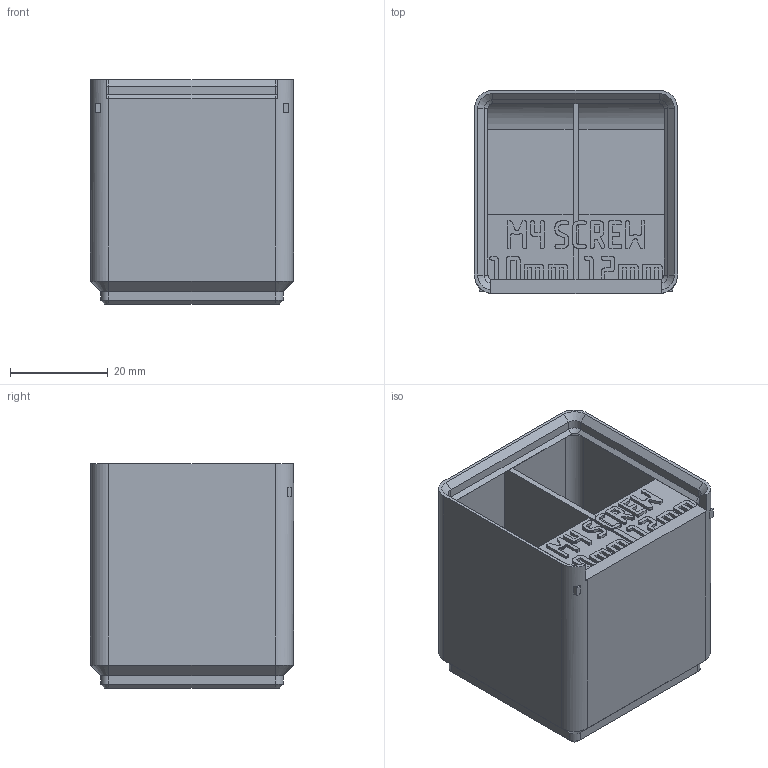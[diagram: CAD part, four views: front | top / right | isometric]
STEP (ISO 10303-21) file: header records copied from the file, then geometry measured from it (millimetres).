
FILE_DESCRIPTION(('Open CASCADE Model'),'2;1');
FILE_NAME('Open CASCADE Shape Model','2026-11-03T10:35:36',('Author'),( 'Open CASCADE'),'Open CASCADE STEP processor 8.0','build123d', 'Unknown');
FILE_SCHEMA(('AUTOMOTIVE_DESIGN { 1 0 10303 214 1 1 1 1 }'));
Products named in the file (1): COMPOUND
Bounding box: 41.5 x 41.5 x 45.9 mm (x, y, z)
Volume: 18617.5 mm3; surface area: 20284.1 mm2
Topology: 1 solids, 1 shells, 1570 faces, 4656 edges, 3088 vertices
Faces by surface type: plane 1532, cone 20, cylinder 18
Entity records: 108632 total; most frequent: CARTESIAN_POINT 22953, DIRECTION 13357, LINE 10035, VECTOR 10035, ORIENTED_EDGE 9312, PCURVE 9312, DEFINITIONAL_REPRESENTATION 9312, EDGE_CURVE 4656
